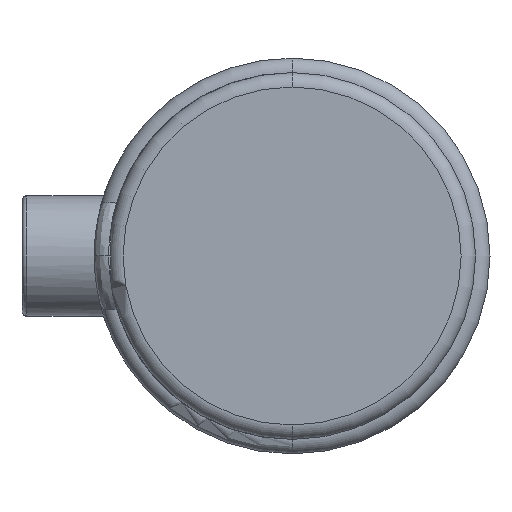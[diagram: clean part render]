
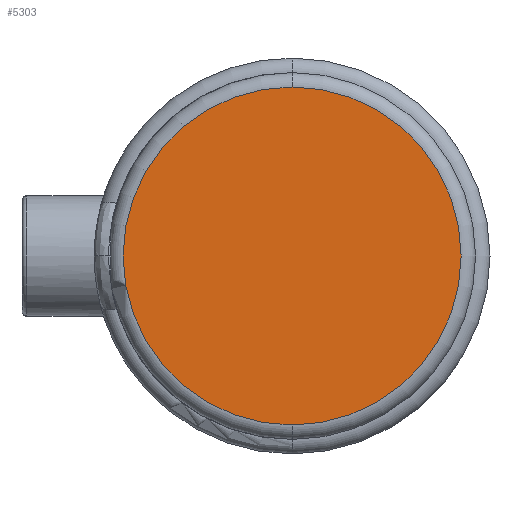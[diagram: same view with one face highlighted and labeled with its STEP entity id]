
A CAD part, left-side view. The second image highlights one B-rep face of the part: STEP entity #5303.
In plain terms, the highlighted planar face has unit normal (-1, 0, 0).
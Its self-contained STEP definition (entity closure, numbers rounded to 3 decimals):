
#238 = EDGE_LOOP ( 'NONE', ( #441, #4089 ) ) ;
#336 = CARTESIAN_POINT ( 'NONE',  ( 0., 0., -35.1 ) ) ;
#441 = ORIENTED_EDGE ( 'NONE', *, *, #5273, .T. ) ;
#1025 = CARTESIAN_POINT ( 'NONE',  ( 0., 0., 0. ) ) ;
#1171 = DIRECTION ( 'NONE',  ( -1., 0., 0. ) ) ;
#1212 = AXIS2_PLACEMENT_3D ( 'NONE', #3783, #1621, #4725 ) ;
#1472 = DIRECTION ( 'NONE',  ( 0., 0., 1. ) ) ;
#1476 = CIRCLE ( 'NONE', #2071, 35.1 ) ;
#1493 = CARTESIAN_POINT ( 'NONE',  ( 0., 0., 35.1 ) ) ;
#1621 = DIRECTION ( 'NONE',  ( -1., 0., 0. ) ) ;
#2071 = AXIS2_PLACEMENT_3D ( 'NONE', #1025, #4135, #1472 ) ;
#3355 = EDGE_CURVE ( 'NONE', #5397, #3500, #1476, .T. ) ;
#3380 = PLANE ( 'NONE',  #1212 ) ;
#3500 = VERTEX_POINT ( 'NONE', #1493 ) ;
#3783 = CARTESIAN_POINT ( 'NONE',  ( 0., 0., 0. ) ) ;
#3844 = CARTESIAN_POINT ( 'NONE',  ( 0., 0., 0. ) ) ;
#3997 = AXIS2_PLACEMENT_3D ( 'NONE', #3844, #1171, #4284 ) ;
#4089 = ORIENTED_EDGE ( 'NONE', *, *, #3355, .T. ) ;
#4135 = DIRECTION ( 'NONE',  ( -1., 0., 0. ) ) ;
#4284 = DIRECTION ( 'NONE',  ( 0., 0., 1. ) ) ;
#4710 = CIRCLE ( 'NONE', #3997, 35.1 ) ;
#4725 = DIRECTION ( 'NONE',  ( 0., 0., 1. ) ) ;
#5273 = EDGE_CURVE ( 'NONE', #3500, #5397, #4710, .T. ) ;
#5303 = ADVANCED_FACE ( 'NONE', ( #5775 ), #3380, .T. ) ;
#5397 = VERTEX_POINT ( 'NONE', #336 ) ;
#5775 = FACE_OUTER_BOUND ( 'NONE', #238, .T. ) ;
